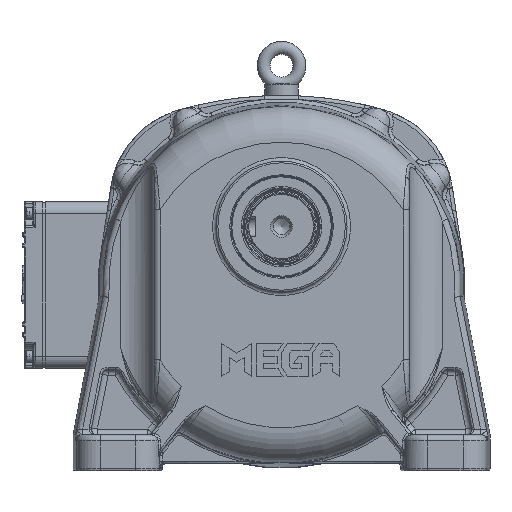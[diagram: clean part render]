
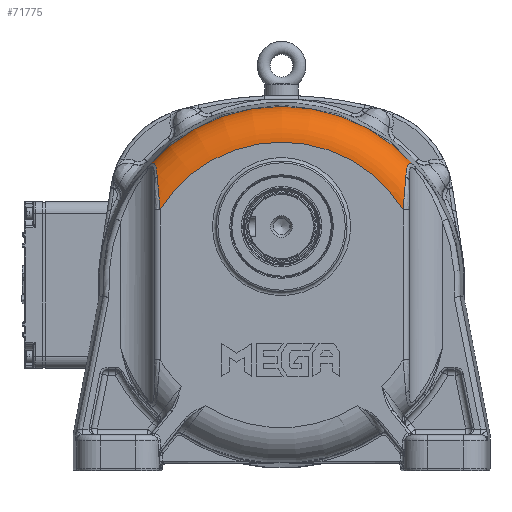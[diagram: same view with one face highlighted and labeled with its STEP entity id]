
A CAD part, front view. The second image highlights one B-rep face of the part: STEP entity #71775.
In plain terms, the highlighted toroidal (fillet/blend) face has major radius 119.862 mm and minor radius 30 mm.
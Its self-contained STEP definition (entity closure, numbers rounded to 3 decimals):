
#1668=TOROIDAL_SURFACE('',#76900,119.862,30.);
#2634=B_SPLINE_CURVE_WITH_KNOTS('',3,(#118862,#118863,#118864,#118865,#118866),
 .UNSPECIFIED.,.F.,.F.,(4,1,4),(-2.599,-1.114,0.),
 .UNSPECIFIED.);
#2635=B_SPLINE_CURVE_WITH_KNOTS('',3,(#118915,#118916,#118917,#118918,#118919,
#118920,#118921,#118922,#118923),.UNSPECIFIED.,.F.,.F.,(4,1,1,1,1,1,4),
(0.,0.733,1.1,1.466,1.833,
2.199,2.566),.UNSPECIFIED.);
#2643=B_SPLINE_CURVE_WITH_KNOTS('',3,(#119085,#119086,#119087,#119088,#119089),
 .UNSPECIFIED.,.F.,.F.,(4,1,4),(-2.599,-1.114,0.),
 .UNSPECIFIED.);
#2644=B_SPLINE_CURVE_WITH_KNOTS('',3,(#119090,#119091,#119092,#119093,#119094,
#119095,#119096,#119097,#119098),.UNSPECIFIED.,.F.,.F.,(4,1,1,1,1,1,4),
(-2.566,-2.199,-1.833,-1.466,
-1.1,-0.733,0.),.UNSPECIFIED.);
#7438=FACE_OUTER_BOUND('',#11782,.T.);
#11782=EDGE_LOOP('',(#49528,#49529,#49530,#49531,#49532,#49533));
#24926=CIRCLE('',#76894,149.849);
#24932=CIRCLE('',#76901,119.862);
#29195=VERTEX_POINT('',#118828);
#29196=VERTEX_POINT('',#118861);
#29197=VERTEX_POINT('',#118913);
#29203=VERTEX_POINT('',#119056);
#29208=VERTEX_POINT('',#119083);
#29209=VERTEX_POINT('',#119084);
#36715=EDGE_CURVE('',#29195,#29196,#2634,.T.);
#36718=EDGE_CURVE('',#29196,#29197,#2635,.T.);
#36727=EDGE_CURVE('',#29203,#29197,#24926,.T.);
#36736=EDGE_CURVE('',#29208,#29209,#2643,.T.);
#36737=EDGE_CURVE('',#29203,#29208,#2644,.T.);
#36738=EDGE_CURVE('',#29195,#29209,#24932,.T.);
#49528=ORIENTED_EDGE('',*,*,#36736,.F.);
#49529=ORIENTED_EDGE('',*,*,#36737,.F.);
#49530=ORIENTED_EDGE('',*,*,#36727,.T.);
#49531=ORIENTED_EDGE('',*,*,#36718,.F.);
#49532=ORIENTED_EDGE('',*,*,#36715,.F.);
#49533=ORIENTED_EDGE('',*,*,#36738,.T.);
#71775=ADVANCED_FACE('',(#7438),#1668,.T.);
#76894=AXIS2_PLACEMENT_3D('',#119057,#86478,#86479);
#76900=AXIS2_PLACEMENT_3D('',#119082,#86490,#86491);
#76901=AXIS2_PLACEMENT_3D('',#119099,#86492,#86493);
#86478=DIRECTION('center_axis',(0.,-1.,0.));
#86479=DIRECTION('ref_axis',(-1.,0.,0.));
#86490=DIRECTION('center_axis',(0.,1.,0.));
#86491=DIRECTION('ref_axis',(0.,0.,1.));
#86492=DIRECTION('center_axis',(0.,1.,0.));
#86493=DIRECTION('ref_axis',(-1.,0.,0.));
#118828=CARTESIAN_POINT('',(-114.691,-190.758,61.201));
#118861=CARTESIAN_POINT('',(-116.96,-184.758,88.438));
#118862=CARTESIAN_POINT('Ctrl Pts',(-114.691,-190.758,
61.201));
#118863=CARTESIAN_POINT('Ctrl Pts',(-115.134,-190.758,
66.424));
#118864=CARTESIAN_POINT('Ctrl Pts',(-115.925,-189.92,
75.713));
#118865=CARTESIAN_POINT('Ctrl Pts',(-116.667,-186.72,
84.778));
#118866=CARTESIAN_POINT('Ctrl Pts',(-116.96,-184.758,
88.438));
#118913=CARTESIAN_POINT('',(-124.637,-161.632,97.864));
#118915=CARTESIAN_POINT('Ctrl Pts',(-116.96,-184.758,
88.438));
#118916=CARTESIAN_POINT('Ctrl Pts',(-117.153,-183.466,
90.848));
#118917=CARTESIAN_POINT('Ctrl Pts',(-117.5,-181.104,
94.328));
#118918=CARTESIAN_POINT('Ctrl Pts',(-118.415,-176.754,
98.013));
#118919=CARTESIAN_POINT('Ctrl Pts',(-119.473,-172.871,
99.902));
#118920=CARTESIAN_POINT('Ctrl Pts',(-120.965,-168.703,
100.46));
#118921=CARTESIAN_POINT('Ctrl Pts',(-122.75,-164.842,
99.667));
#118922=CARTESIAN_POINT('Ctrl Pts',(-124.006,-162.643,
98.528));
#118923=CARTESIAN_POINT('Ctrl Pts',(-124.637,-161.632,
97.864));
#119056=CARTESIAN_POINT('',(99.254,-161.632,97.864));
#119057=CARTESIAN_POINT('Origin',(-12.691,-161.632,-1.75));
#119082=CARTESIAN_POINT('Origin',(-12.691,-160.758,-1.75));
#119083=CARTESIAN_POINT('',(91.578,-184.758,88.438));
#119084=CARTESIAN_POINT('',(89.309,-190.758,61.201));
#119085=CARTESIAN_POINT('Ctrl Pts',(91.578,-184.758,
88.438));
#119086=CARTESIAN_POINT('Ctrl Pts',(91.187,-187.374,
83.558));
#119087=CARTESIAN_POINT('Ctrl Pts',(90.427,-190.123,
74.349));
#119088=CARTESIAN_POINT('Ctrl Pts',(89.641,-190.758,
65.118));
#119089=CARTESIAN_POINT('Ctrl Pts',(89.309,-190.758,
61.201));
#119090=CARTESIAN_POINT('Ctrl Pts',(99.254,-161.632,
97.864));
#119091=CARTESIAN_POINT('Ctrl Pts',(98.624,-162.643,
98.528));
#119092=CARTESIAN_POINT('Ctrl Pts',(97.367,-164.843,
99.667));
#119093=CARTESIAN_POINT('Ctrl Pts',(95.583,-168.702,
100.46));
#119094=CARTESIAN_POINT('Ctrl Pts',(94.09,-172.872,
99.901));
#119095=CARTESIAN_POINT('Ctrl Pts',(93.033,-176.753,
98.013));
#119096=CARTESIAN_POINT('Ctrl Pts',(92.117,-181.105,94.326));
#119097=CARTESIAN_POINT('Ctrl Pts',(91.771,-183.466,
90.848));
#119098=CARTESIAN_POINT('Ctrl Pts',(91.578,-184.758,
88.438));
#119099=CARTESIAN_POINT('Origin',(-12.691,-190.758,-1.75));
